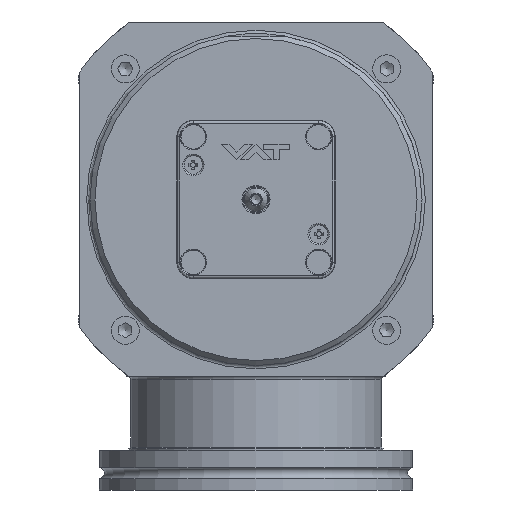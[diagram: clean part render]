
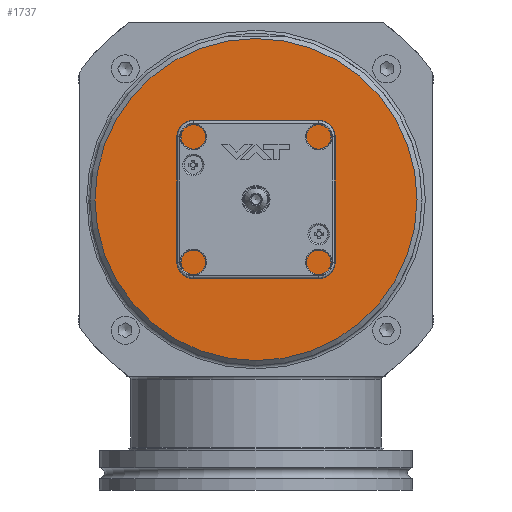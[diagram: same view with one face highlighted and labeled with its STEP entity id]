
A CAD part, front view. The second image highlights one B-rep face of the part: STEP entity #1737.
In plain terms, the highlighted planar face has unit normal (0, -1, 0) as drawn and (1, 0, 0) by its records, which use the part's own axes.
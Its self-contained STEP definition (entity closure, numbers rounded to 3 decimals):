
#1130=PLANE('',#8685);
#1737=ADVANCED_FACE('',(#3558,#3559,#3560,#3561),#1130,.T.);
#3558=FACE_BOUND('',#3941,.T.);
#3559=FACE_BOUND('',#3942,.T.);
#3560=FACE_BOUND('',#3943,.T.);
#3561=FACE_BOUND('',#3944,.T.);
#3941=EDGE_LOOP('',(#4780));
#3942=EDGE_LOOP('',(#4781));
#3943=EDGE_LOOP('',(#4782));
#3944=EDGE_LOOP('',(#4783));
#4780=ORIENTED_EDGE('',*,*,#7303,.T.);
#4781=ORIENTED_EDGE('',*,*,#7304,.T.);
#4782=ORIENTED_EDGE('',*,*,#7305,.T.);
#4783=ORIENTED_EDGE('',*,*,#7277,.T.);
#6519=VERTEX_POINT('',#12007);
#6544=VERTEX_POINT('',#12129);
#6545=VERTEX_POINT('',#12131);
#6546=VERTEX_POINT('',#12133);
#7277=EDGE_CURVE('',#6519,#6519,#8185,.T.);
#7303=EDGE_CURVE('',#6544,#6544,#8206,.T.);
#7304=EDGE_CURVE('',#6545,#6545,#8207,.T.);
#7305=EDGE_CURVE('',#6546,#6546,#8208,.T.);
#8185=CIRCLE('',#8647,8.007);
#8206=CIRCLE('',#8682,48.8);
#8207=CIRCLE('',#8683,2.35);
#8208=CIRCLE('',#8684,2.35);
#8647=AXIS2_PLACEMENT_3D('',#12006,#9749,#9750);
#8682=AXIS2_PLACEMENT_3D('',#12128,#9823,#9824);
#8683=AXIS2_PLACEMENT_3D('',#12130,#9825,#9826);
#8684=AXIS2_PLACEMENT_3D('',#12132,#9827,#9828);
#8685=AXIS2_PLACEMENT_3D('',#12134,#9829,#9830);
#9749=DIRECTION('',(-1.,0.,0.));
#9750=DIRECTION('',(0.,-1.,0.));
#9823=DIRECTION('',(1.,0.,0.));
#9824=DIRECTION('',(0.,1.,0.));
#9825=DIRECTION('',(-1.,0.,0.));
#9826=DIRECTION('',(0.,0.,1.));
#9827=DIRECTION('',(-1.,0.,0.));
#9828=DIRECTION('',(0.,0.,1.));
#9829=DIRECTION('',(1.,0.,0.));
#9830=DIRECTION('',(0.,1.,0.));
#12006=CARTESIAN_POINT('',(73.7,0.,0.));
#12007=CARTESIAN_POINT('',(73.7,-8.007,0.));
#12128=CARTESIAN_POINT('',(73.7,0.,0.));
#12129=CARTESIAN_POINT('',(73.7,48.8,0.));
#12130=CARTESIAN_POINT('',(73.7,-19.,10.5));
#12131=CARTESIAN_POINT('',(73.7,-19.,12.85));
#12132=CARTESIAN_POINT('',(73.7,19.,-10.5));
#12133=CARTESIAN_POINT('',(73.7,19.,-8.15));
#12134=CARTESIAN_POINT('',(73.7,50.3,0.));
